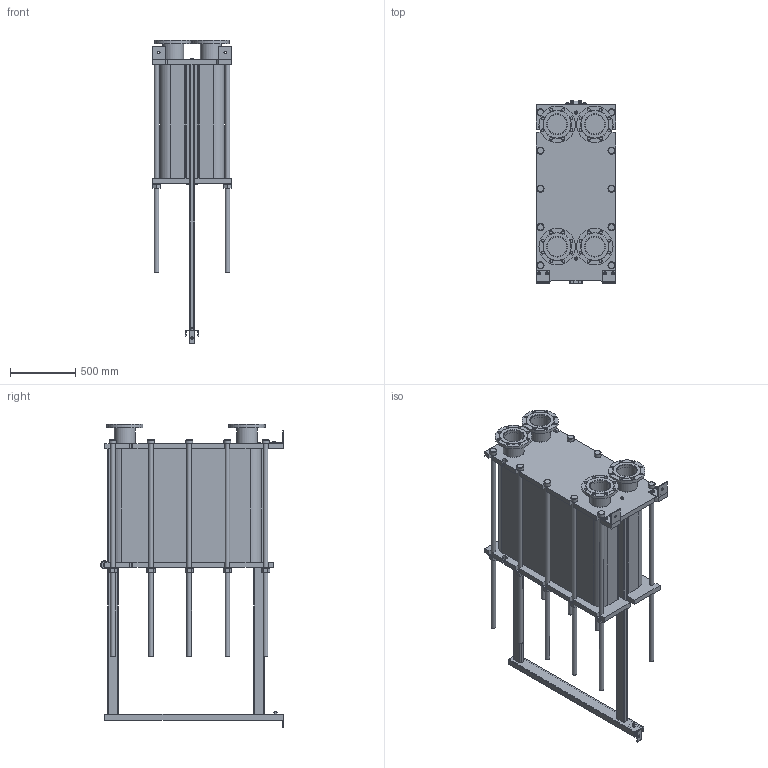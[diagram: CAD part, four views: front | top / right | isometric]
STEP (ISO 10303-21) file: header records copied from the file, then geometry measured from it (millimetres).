
FILE_DESCRIPTION(/* description */ (''),/* implementation_level */ '2;1');
FILE_NAME(/* name */ 'C:\Users\zhuro\Desktop\ENCO\TO\ЭН-041\ЭН-0,5-041-253-1.stp',/* time_stamp */ '2022-06-06T11:10:14+03:00',/* author */ ('zhuro'),/* organization */ (''),/* preprocessor_version */ 'ST-DEVELOPER v18.1',/* originating_system */ 'Autodesk Inventor 2022',/* authorisation */ '');
FILE_SCHEMA (('AUTOMOTIVE_DESIGN { 1 0 10303 214 3 1 1 }'));
Length unit declared in the file: millimetre
Products named in the file (1): ЭН-0,5-041-253-1
Bounding box: 610 x 1406.5 x 2337.5 mm (x, y, z)
Volume: 582148232.2 mm3; surface area: 12398035.7 mm2
Topology: 52 solids, 52 shells, 711 faces, 1696 edges, 1094 vertices
Faces by surface type: plane 487, cylinder 177, cone 41, torus 6
Full cylindrical faces by diameter (mm): 8 x4, 10 x2, 16 x8, 18 x3, 22 x32, 36 x24, 50 x1, 54 x10, 60 x12, 151 x4, 161 x8, 280 x4
Entity records: 22667 total; most frequent: CARTESIAN_POINT 5230, DIRECTION 3644, ORIENTED_EDGE 3392, EDGE_CURVE 1696, AXIS2_PLACEMENT_3D 1272, LINE 1100, VECTOR 1100, VERTEX_POINT 1094
